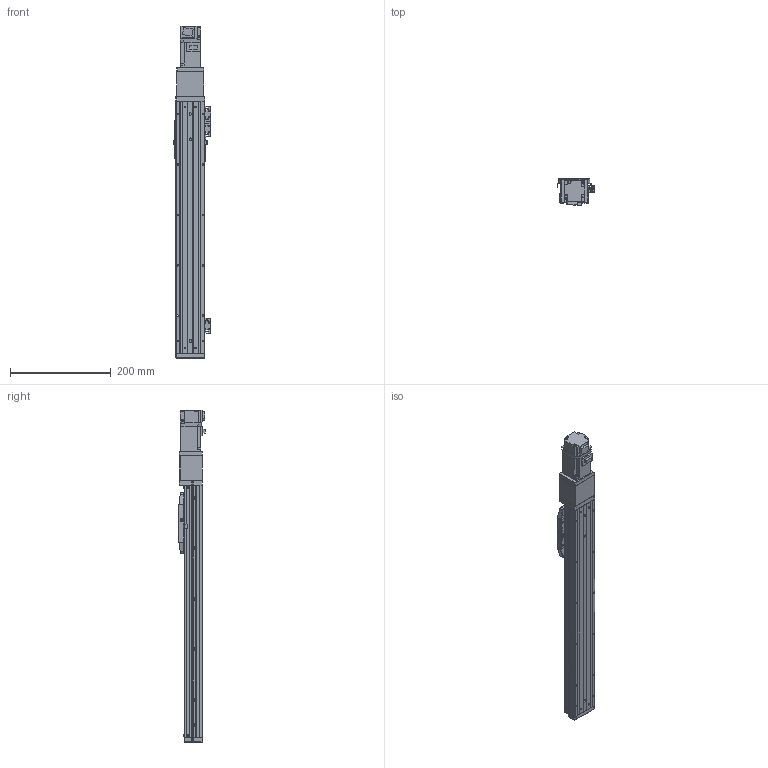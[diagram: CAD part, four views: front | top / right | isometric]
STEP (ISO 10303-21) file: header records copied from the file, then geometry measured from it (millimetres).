
FILE_DESCRIPTION (( 'STEP AP203' ), '1' );
FILE_NAME ('CTHA50-350-BC-M10-C4L.step', '2022-03-19T05:56:13', ( '微软用户' ), ( '微软中国' ), 'SwSTEP 2.0', 'SolidWorks 2020', '' );
FILE_SCHEMA (( 'CONFIG_CONTROL_DESIGN' ));
Length unit declared in the file: millimetre
Products named in the file (20): CTHA60-017; HG-KR13（三菱）; KTHA50-004; GBT 70.1-M4×12; GBT 70.3-M3℅6; KTHA50-005; CTHA60-016; CTHA50-002; GB¨uT 70.2-M3¡Á6_M3¡Á6; CTHA60-021; CTHA50-030; EE_SX911P_R; CTHA50-027; GBT77-2000 M3×3; CTHA50-006-2_CTHA60-006-2; CTHA50-031; GBT 70.1-M3℅6; CTHA50-013; CTHA50-350-BC-M10-C4L; KTHA50-001_500
Assembly tree (59 placements, depth 2):
  CTHA50-350-BC-M10-C4L
    KTHA50-001_500
    KTHA50-004
    KTHA50-005
    GB¨uT 70.2-M3¡Á6_M3¡Á6  x10
    EE_SX911P_R  x3
    GBT77-2000 M3×3  x6
    GBT 70.1-M3℅6  x6
    CTHA60-017  x3
    GBT 70.1-M4×12  x10
    CTHA60-016  x2
    CTHA60-021  x2
    CTHA50-027
    CTHA50-006-2_CTHA60-006-2
    CTHA50-013
    HG-KR13（三菱）
    GBT 70.3-M3℅6  x6
    CTHA50-002
    CTHA50-030  x2
    CTHA50-031
Bounding box: 74.12 x 53.3 x 658.6 mm (x, y, z)
Volume: 1088667.6 mm3; surface area: 297835.9 mm2
Topology: 61 solids, 61 shells, 2416 faces, 5738 edges, 3510 vertices
Faces by surface type: plane 1390, cylinder 544, cone 362, torus 96, sphere 24
Entity records: 39344 total; most frequent: CARTESIAN_POINT 6339, DIRECTION 6300, ORIENTED_EDGE 6044, EDGE_CURVE 3022, LINE 2204, VECTOR 2204, AXIS2_PLACEMENT_3D 2048, VERTEX_POINT 1903
